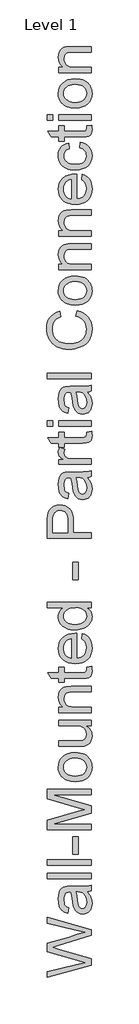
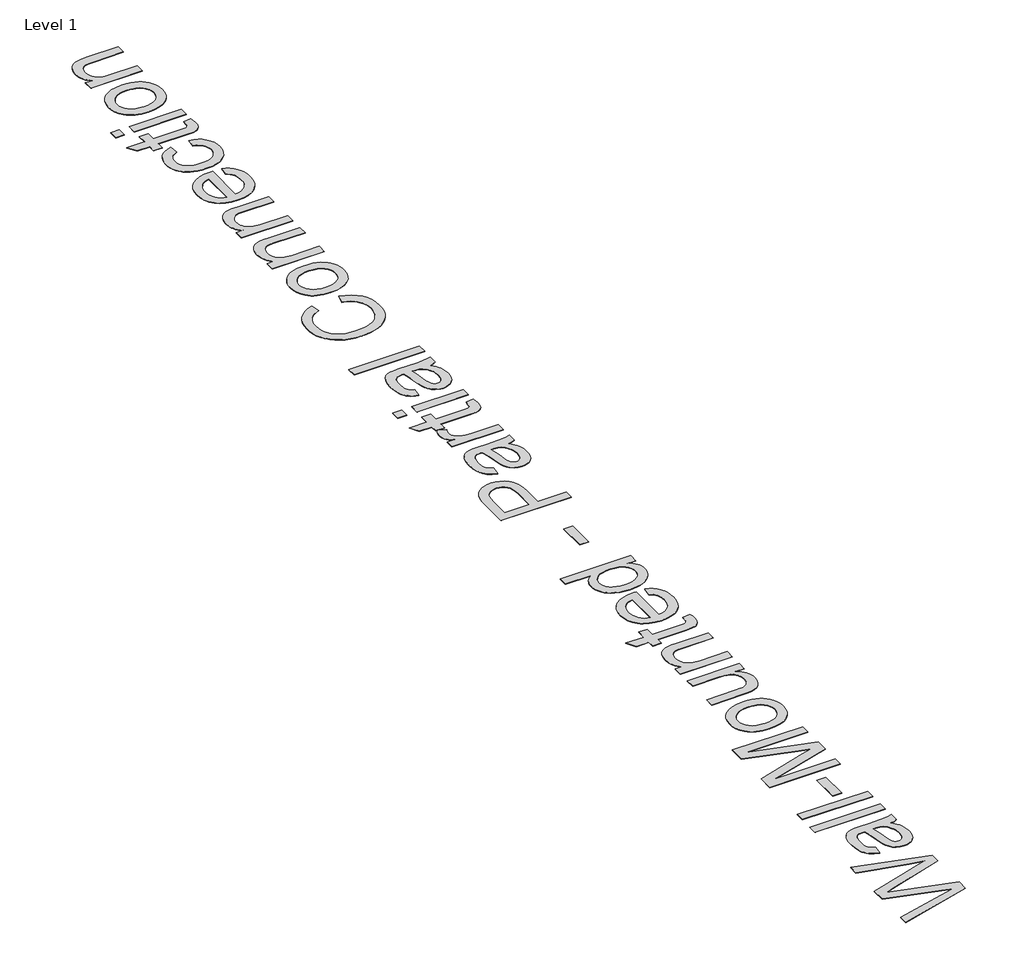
# One storey, part 45 of 80: 1 proxy.
"""IFC4 building model written with IfcOpenShell, lengths in millimetres."""

from ifc_helpers import new_model, si_unit, origin, origin_with_axes, place, context, project, spatial, polyline, outline, extrude, element, save

model = new_model("IFC4")

# Units and contexts
model_context = context("Model", 3, world=origin())
ifc_project = project(units=[si_unit("LENGTHUNIT", "METRE", prefix="MILLI")], contexts=[model_context])

# Site, building, storey
site = spatial("IfcSite", under=ifc_project)
building = spatial("IfcBuilding", under=site)
storey = spatial("IfcBuildingStorey", under=building, Name="Level 1", Elevation=0.0)

# Proxy
placement = place(None, origin())
element("IfcBuildingElementProxy", 1, Name="800mm Arial", ObjectType="800mm Arial", at=placement, inside=storey, context=model_context, shape_type="SweptSolid", body=[
    extrude(outline(polyline([(114831.971127, 17301.1605464), (114032.5824286, 17083.163189), (114032.5824286, 17186.2093884), (114557.9619149, 17312.6751786), (114720.142581, 17351.7078299), (114576.6975875, 17393.4727667), (114032.5824286, 17551.9453309), (114032.5824286, 17700.4645691), (114427.0073699, 17815.6108904), (114573.3798122, 17864.9384035), (114720.142581, 17901.28756), (114562.6458331, 17939.1492317), (114032.5824286, 18066.7860014), (114032.5824286, 18169.8322008), (114831.971127, 17951.6396801), (114831.971127, 17844.8853789), (114215.2552366, 17653.235061), (114129.1882405, 17626.4976949), (114232.8199297, 17596.4425534), (114831.971127, 17421.7714389), (114831.971127, 17301.1605464)])), origin_with_axes(), (0.0, 0.0, 1.0), 5.0),
    extrude(outline(polyline([(114757.0284365, 18631.978792), (114797.9639295, 18584.2369804), (114813.125675, 18559.8354745), (114824.7500865, 18535.0802352), (114839.5337031, 18483.3863677), (114844.4615754, 18428.0331891), (114841.4975334, 18383.5420655), (114832.6054075, 18344.5277107), (114817.7851978, 18310.9901249), (114797.0369041, 18282.9293079), (114771.6778784, 18260.7721795), (114743.0254728, 18244.9456591), (114711.0796873, 18235.4497469), (114675.8405218, 18232.2844429), (114634.4171206, 18237.0659427), (114596.799403, 18251.410442), (114564.5974656, 18273.5370762), (114539.4214056, 18301.6649805), (114520.3929881, 18334.7207571), (114506.6339785, 18371.631008), (114491.6064077, 18458.0883306), (114475.798184, 18560.2562953), (114457.2576746, 18631.3933023), (114435.0090634, 18631.978792), (114410.7844242, 18630.2589158), (114390.4142593, 18625.0992872), (114373.8985687, 18616.4999063), (114361.2373524, 18604.4607729), (114348.6005316, 18583.6514907), (114339.574231, 18558.3046627), (114334.1584506, 18528.4202891), (114332.3531905, 18493.9983697), (114337.1590857, 18434.4735765), (114343.1664547, 18411.4443123), (114351.5767713, 18392.9038029), (114363.0487114, 18377.6688712), (114378.2409512, 18364.5563399), (114397.1534905, 18353.566209), (114419.7863294, 18344.6984786), (114407.295881, 18244.7748913), (114352.6501692, 18262.1200257), (114329.7184865, 18273.9944901), (114309.7142527, 18288.0035526), (114292.2349436, 18304.7509995), (114276.8780349, 18324.8406172), (114263.6435265, 18348.2724057), (114252.5314186, 18375.0463649), (114237.4550571, 18436.4496045), (114232.4296032, 18506.8791447), (114236.8695673, 18574.4300268), (114250.1894595, 18627.9779453), (114270.2180887, 18668.352344), (114294.7842636, 18696.3826667), (114325.1565454, 18714.9719668), (114362.6034952, 18727.0232979), (114397.1473916, 18730.682609), (114450.0366341, 18731.9023793), (114574.3556285, 18731.9023793), (114682.6468404, 18733.1709405), (114747.9533451, 18736.976624), (114790.8648661, 18744.4904094), (114831.971127, 18756.8832762), (114831.971127, 18656.9596889), (114797.2320673, 18640.9563018), (114757.0284365, 18631.978792)]), holes=[polyline([(114557.1812619, 18631.978792), (114573.8189295, 18564.8426318), (114587.8218932, 18470.7739422), (114595.482051, 18418.9337022), (114604.0204434, 18384.8045278), (114615.0959582, 18362.4339395), (114630.3674831, 18345.8694581), (114648.6640384, 18335.6233871), (114668.8146446, 18332.2080302), (114684.3423212, 18334.0681799), (114698.5282504, 18339.6486293), (114711.3724322, 18348.9493783), (114722.8748666, 18361.9704268), (114732.3524823, 18378.5897978), (114739.1222077, 18398.6855144), (114744.5379881, 18449.305984), (114738.5611133, 18502.9758795), (114731.0900199, 18527.4688682), (114720.6304892, 18550.4005509), (114694.2102633, 18588.8477124), (114662.7645836, 18615.5850785), (114630.3674831, 18627.4412463), (114585.4799341, 18631.3933023), (114557.1812619, 18631.978792)])]), origin_with_axes(), (0.0, 0.0, 1.0), 5.0),
    extrude(outline(polyline([(114831.971127, 18869.2973119), (114032.5824286, 18869.2973119), (114032.5824286, 18969.2208992), (114831.971127, 18969.2208992), (114831.971127, 18869.2973119)])), origin_with_axes(), (0.0, 0.0, 1.0), 5.0),
    extrude(outline(polyline([(114831.971127, 19119.1062801), (114032.5824286, 19119.1062801), (114032.5824286, 19219.0298674), (114831.971127, 19219.0298674), (114831.971127, 19119.1062801)])), origin_with_axes(), (0.0, 0.0, 1.0), 5.0),
    extrude(outline(polyline([(114594.6526071, 19318.9534547), (114494.7290198, 19318.9534547), (114494.7290198, 19631.214665), (114594.6526071, 19631.214665), (114594.6526071, 19318.9534547)])), origin_with_axes(), (0.0, 0.0, 1.0), 5.0),
    extrude(outline(polyline([(114831.971127, 19756.1191491), (114032.5824286, 19756.1191491), (114032.5824286, 19928.057978), (114596.0187499, 20091.6047869), (114713.7021936, 20124.5873772), (114586.2605871, 20160.3022532), (114032.5824286, 20321.1167765), (114032.5824286, 20493.0556054), (114831.971127, 20493.0556054), (114831.971127, 20393.1320181), (114132.5060159, 20393.1320181), (114831.971127, 20192.3090272), (114831.971127, 20056.8657272), (114132.5060159, 19856.0427364), (114831.971127, 19856.0427364), (114831.971127, 19756.1191491)])), origin_with_axes(), (0.0, 0.0, 1.0), 5.0),
    extrude(outline(polyline([(114538.4455893, 20630.4505379), (114462.4173032, 20635.8541206), (114428.3460678, 20642.6085989), (114396.9034376, 20652.0648685), (114368.0894124, 20664.2229295), (114341.9039924, 20679.0827819), (114318.3471774, 20696.6444255), (114297.4189676, 20716.9078605), (114268.9861207, 20754.9890909), (114248.6769443, 20797.0223773), (114236.4914385, 20843.0077196), (114232.4296032, 20892.9451178), (114237.375772, 20948.0726389), (114252.2142783, 20997.9185543), (114276.9451222, 21042.4828642), (114311.5683037, 21081.7655684), (114354.9128432, 21113.8272321), (114405.8077611, 21136.7284205), (114464.2530576, 21150.4691335), (114530.2487325, 21155.0493712), (114583.7356625, 21153.0245524), (114631.1969269, 21146.950096), (114672.6325258, 21136.8260021), (114708.0424591, 21122.6522706), (114738.6282007, 21104.6057682), (114765.5912244, 21082.8633617), (114788.9315301, 21057.425051), (114808.6491178, 21028.2908361), (114824.317068, 20996.5951035), (114835.508461, 20963.4722396), (114842.2232968, 20928.9222443), (114844.4615754, 20892.9451178), (114839.5337031, 20837.0125483), (114824.7500865, 20786.7031201), (114800.1107253, 20742.0168332), (114765.6156198, 20702.9536877), (114721.8502595, 20671.2335596), (114669.4001344, 20648.5763253), (114608.2652443, 20634.9819848), (114538.4455893, 20630.4505379)]), holes=[polyline([(114538.250426, 20730.3741252), (114586.718001, 20733.2649809), (114628.6842, 20741.9375481), (114664.149023, 20756.3918268), (114693.11247, 20776.627817), (114715.6111342, 20801.2427827), (114731.6816086, 20828.8339881), (114741.3238932, 20859.4014331), (114744.5379881, 20892.9451178), (114741.3055966, 20926.3180346), (114731.6084223, 20956.7635026), (114715.4464652, 20984.2815218), (114692.8197251, 21008.8720921), (114663.5696321, 21029.1080823), (114627.5376158, 21043.5623609), (114584.7236765, 21052.2349282), (114535.1278139, 21055.1257839), (114488.1971496, 21052.2166316), (114447.3287439, 21043.4891747), (114412.5225969, 21028.9434133), (114383.7787086, 21008.5793472), (114361.2800444, 20983.8972941), (114345.20957, 20956.3975715), (114335.5672854, 20926.0801794), (114332.3531905, 20892.9451178), (114335.5550877, 20859.4014331), (114345.1607792, 20828.8339881), (114361.1702651, 20801.2427827), (114383.5835453, 20776.627817), (114412.4616084, 20756.3918268), (114447.8654429, 20741.9375481), (114489.7950488, 20733.2649809), (114538.250426, 20730.3741252)])]), origin_with_axes(), (0.0, 0.0, 1.0), 5.0),
    extrude(outline(polyline([(114831.971127, 21642.1768592), (114731.0717234, 21642.1768592), (114757.6474699, 21624.8439225), (114780.6797836, 21606.022866), (114800.1686644, 21585.7136896), (114816.1141124, 21563.9163934), (114828.5161274, 21540.6309774), (114837.3747096, 21515.8574415), (114842.6898589, 21489.5957858), (114844.4615754, 21461.8460103), (114839.4849123, 21413.1771732), (114824.5549232, 21367.8749023), (114802.1111487, 21329.8668581), (114774.5931296, 21303.0807012), (114741.1714219, 21285.0524954), (114701.0165819, 21273.3183046), (114663.1549101, 21268.9271313), (114608.1188718, 21267.4634069), (114244.9200516, 21267.4634069), (114244.9200516, 21367.3869942), (114561.084527, 21367.3869942), (114624.3174221, 21368.8995094), (114662.9597469, 21373.4370551), (114680.9696561, 21379.4200287), (114696.9425489, 21388.0011131), (114710.8784252, 21399.1803084), (114722.777285, 21412.9576146), (114732.2975926, 21428.9183096), (114739.0978123, 21446.6476717), (114744.5379881, 21487.4123969), (114738.9758353, 21530.5190811), (114722.2893768, 21570.844689), (114710.1587607, 21588.8911914), (114696.0155234, 21604.0956288), (114679.8596651, 21616.4580013), (114661.6911857, 21625.9783089), (114614.6812363, 21638.1272217), (114550.3505479, 21642.1768592), (114244.9200516, 21642.1768592), (114244.9200516, 21742.1004465), (114831.971127, 21742.1004465), (114831.971127, 21642.1768592)])), origin_with_axes(), (0.0, 0.0, 1.0), 5.0),
    extrude(outline(polyline([(114831.971127, 21879.4953791), (114244.9200516, 21879.4953791), (114244.9200516, 21979.4189663), (114326.8886193, 21979.4189663), (114304.7497874, 21995.9041627), (114285.5627998, 22014.1336306), (114269.3276564, 22034.1073701), (114256.0443572, 22055.8253812), (114245.7129023, 22079.287664), (114238.3332917, 22104.4942183), (114232.4296032, 22160.1401418), (114237.1867076, 22209.3944686), (114251.4580207, 22254.5015763), (114273.4626779, 22292.119294), (114301.4198144, 22318.9054509), (114335.2562439, 22337.0800292), (114374.8987804, 22348.8630108), (114412.809243, 22352.8150667), (114471.5045923, 22354.1324187), (114831.971127, 22354.1324187), (114831.971127, 22254.2088314), (114484.970857, 22254.2088314), (114433.3013849, 22251.3301734), (114396.5619019, 22242.6941993), (114370.2392576, 22226.7639985), (114349.8203019, 22202.0026603), (114336.7199684, 22170.2642357), (114332.3531905, 22133.4027757), (114334.8049289, 22103.0609881), (114342.1601441, 22074.8781941), (114354.4188362, 22048.8543937), (114371.581005, 22024.9895867), (114395.5982833, 22005.0524403), (114428.4223035, 21990.8116214), (114470.0530656, 21982.2671301), (114520.4905697, 21979.4189663), (114831.971127, 21979.4189663), (114831.971127, 21879.4953791)])), origin_with_axes(), (0.0, 0.0, 1.0), 5.0),
    extrude(outline(polyline([(114748.6364165, 22703.8649742), (114834.8985758, 22716.3554226), (114842.0708255, 22676.7860724), (114844.4615754, 22641.6078954), (114840.3143562, 22593.6465251), (114827.8726986, 22557.8828584), (114808.6979086, 22532.6092167), (114784.3512924, 22516.1179215), (114742.5375647, 22507.0428301), (114670.9614404, 22504.0177996), (114344.8436389, 22504.0177996), (114344.8436389, 22429.0751092), (114244.9200516, 22429.0751092), (114244.9200516, 22504.0177996), (114102.2557112, 22504.0177996), (114043.511571, 22603.9413869), (114244.9200516, 22603.9413869), (114244.9200516, 22703.8649742), (114344.8436389, 22703.8649742), (114344.8436389, 22603.9413869), (114668.0339916, 22603.9413869), (114700.9190003, 22605.2587389), (114719.5570913, 22609.2107948), (114729.8763484, 22616.114695), (114737.8048557, 22626.2875798), (114742.854705, 22640.7052654), (114744.5379881, 22660.343568), (114748.6364165, 22703.8649742)])), origin_with_axes(), (0.0, 0.0, 1.0), 5.0),
    extrude(outline(polyline([(114657.1048492, 23214.8023796), (114669.5952976, 23312.7743343), (114708.8353099, 23297.7528624), (114743.4157994, 23277.4741803), (114773.3367661, 23251.9382879), (114798.5982101, 23221.1451854), (114818.6634324, 23185.4120129), (114832.9957341, 23145.0559108), (114841.595115, 23100.076879), (114844.4615754, 23050.4749176), (114839.5154066, 22988.4739906), (114824.6769002, 22933.2305913), (114799.9460563, 22884.7447198), (114765.3228749, 22843.0163761), (114721.7709744, 22809.4604937), (114670.2539736, 22785.4920062), (114610.7718723, 22771.1109138), (114543.3246707, 22766.3172163), (114473.5903996, 22771.1597046), (114412.1261716, 22785.6871695), (114358.9319865, 22809.899611), (114335.4361601, 22825.637698), (114314.0078444, 22843.7970291), (114278.3173639, 22885.4155935), (114252.8241635, 22932.791474), (114237.5282433, 22985.9246706), (114232.4296032, 23044.8151832), (114237.5160456, 23101.8089529), (114252.7753727, 23153.3503492), (114278.2075845, 23199.439372), (114313.8126811, 23240.0760213), (114358.6392416, 23273.247676), (114411.735845, 23296.9417151), (114473.1024915, 23311.1581386), (114542.7391809, 23315.8969464), (114569.6717103, 23315.3114566), (114569.6717103, 22866.2408036), (114609.5460031, 22872.0286139), (114644.4680283, 22883.5371472), (114674.4377859, 22900.7664034), (114699.4552758, 22923.7163826), (114719.1789624, 22951.1185236), (114733.26731, 22981.7042652), (114741.7203186, 23015.4736074), (114744.5379881, 23052.4265502), (114739.317371, 23105.6085376), (114723.6555196, 23150.3985049), (114711.6651771, 23169.6464811), (114696.5766178, 23186.7964523), (114678.3898419, 23201.8484184), (114657.1048492, 23214.8023796)]), holes=[polyline([(114469.748123, 22866.2408036), (114469.748123, 23215.9733591), (114441.4738462, 23210.8381259), (114416.9564622, 23202.4583036), (114396.1959708, 23190.8338921), (114379.192372, 23175.9648915), (114358.7002301, 23148.7152218), (114344.0629859, 23117.7086595), (114335.2806393, 23082.9452044), (114332.3531905, 23044.4248567), (114334.6890507, 23009.2893717), (114341.6966314, 22977.0691378), (114353.3759325, 22947.7641551), (114369.7269541, 22921.3744235), (114389.9934385, 22899.2294928), (114413.4191281, 22882.6589125), (114440.004023, 22871.6626828), (114469.748123, 22866.2408036)])]), origin_with_axes(), (0.0, 0.0, 1.0), 5.0),
    extrude(outline(polyline([(114831.971127, 23778.0435376), (114737.7072741, 23778.0435376), (114784.4122809, 23748.1469663), (114802.7606764, 23730.8292767), (114817.7730001, 23711.9319845), (114829.4492518, 23691.4550897), (114837.7894315, 23669.3985923), (114842.7935394, 23645.7624923), (114844.4615754, 23620.5467897), (114842.0464301, 23587.5641993), (114834.8009942, 23555.9477518), (114822.7252677, 23525.6974471), (114805.8192506, 23496.8132851), (114784.5891476, 23470.197896), (114759.5411634, 23446.7539098), (114730.675298, 23426.4813266), (114697.9915514, 23409.3801462), (114662.1120065, 23395.8041022), (114623.6587461, 23386.1069279), (114582.6317703, 23380.2886233), (114539.0310791, 23378.3491884), (114496.2293374, 23380.136152), (114455.4524145, 23385.4970427), (114416.7003104, 23394.4318605), (114379.9730251, 23406.9406055), (114346.3439564, 23423.0171788), (114316.8865024, 23442.6554814), (114291.600663, 23465.8555135), (114270.4864382, 23492.6172751), (114253.8365729, 23521.995444), (114241.943812, 23553.0446984), (114234.8081554, 23585.7650381), (114232.4296032, 23620.1564632), (114234.1311828, 23645.3081278), (114239.2359218, 23669.0448589), (114247.74382, 23691.3666564), (114259.6548775, 23712.2735202), (114290.9541847, 23748.9154216), (114330.4015579, 23778.0435376), (114032.5824286, 23778.0435376), (114032.5824286, 23877.9671249), (114831.971127, 23877.9671249), (114831.971127, 23778.0435376)]), holes=[polyline([(114538.6407525, 23478.2727757), (114587.0961298, 23481.0904453), (114629.0257357, 23489.5434538), (114664.4295702, 23503.6318014), (114693.3076333, 23523.355488), (114715.7209135, 23546.9092535), (114731.7303994, 23572.4878378), (114741.3360909, 23600.0912409), (114744.5379881, 23629.7194627), (114741.4824633, 23659.4879582), (114732.3158891, 23686.9266923), (114717.0382655, 23712.035665), (114695.6495923, 23734.8148763), (114667.9791019, 23753.7274156), (114633.8560263, 23767.2363723), (114593.2803655, 23775.3417463), (114546.2521195, 23778.0435376), (114494.6924267, 23775.2929555), (114450.4757514, 23767.041209), (114413.6020937, 23753.2882983), (114384.0714534, 23734.0342233), (114361.4447134, 23710.7549061), (114345.2827562, 23684.9262689), (114335.5855819, 23656.5483116), (114332.3531905, 23625.6210343), (114335.457506, 23595.4073227), (114344.7704527, 23567.8039196), (114360.2920304, 23542.8108251), (114382.0222393, 23520.4280391), (114410.4367896, 23501.9851114), (114446.011392, 23488.8115916), (114488.7460463, 23480.9074797), (114538.6407525, 23478.2727757)])]), origin_with_axes(), (0.0, 0.0, 1.0), 5.0),
    extrude(outline(polyline([(114594.6526071, 24290.1519225), (114494.7290198, 24290.1519225), (114494.7290198, 24602.4131328), (114594.6526071, 24602.4131328), (114594.6526071, 24290.1519225)])), origin_with_axes(), (0.0, 0.0, 1.0), 5.0),
    extrude(outline(polyline([(114831.971127, 25039.5788272), (114032.5824286, 25039.5788272), (114032.5824286, 25335.8366504), (114034.4852704, 25404.8268616), (114040.1937956, 25455.2765634), (114054.4163179, 25508.531737), (114077.5675592, 25552.3702835), (114092.7537001, 25570.9778802), (114110.696522, 25587.6704375), (114154.8522088, 25615.3104337), (114180.2905195, 25625.7272725), (114206.9364028, 25633.1678716), (114263.8508875, 25639.1203509), (114312.9222488, 25635.1012076), (114358.0659495, 25623.0437777), (114399.2819897, 25602.9480611), (114436.5703694, 25574.8140579), (114453.128752, 25557.1197643), (114467.4793502, 25536.1900297), (114479.622164, 25512.0248543), (114489.5571935, 25484.6242381), (114502.8038996, 25420.116683), (114507.2194683, 25342.6673644), (114507.2194683, 25139.5024145), (114831.971127, 25139.5024145), (114831.971127, 25039.5788272)]), holes=[polyline([(114407.295881, 25139.5024145), (114407.295881, 25348.5222621), (114405.0027127, 25396.581214), (114398.1232079, 25437.1263805), (114386.6573666, 25470.1577617), (114370.6051888, 25495.6753575), (114350.393594, 25514.7159727), (114326.449502, 25528.3164121), (114298.7729127, 25536.4766758), (114267.3638261, 25539.1967637), (114244.041817, 25537.5927656), (114222.4762771, 25532.7807716), (114202.6672066, 25524.7607815), (114184.6146054, 25513.5327954), (114168.9039632, 25499.6945008), (114156.1207699, 25483.843585), (114146.2650255, 25465.9800482), (114139.3367299, 25446.1038903), (114134.2136944, 25407.5591472), (114132.5060159, 25346.180303), (114132.5060159, 25139.5024145), (114407.295881, 25139.5024145)])]), origin_with_axes(), (0.0, 0.0, 1.0), 5.0),
    extrude(outline(polyline([(114757.0284365, 26138.7382874), (114797.9639295, 26090.9964758), (114813.125675, 26066.5949699), (114824.7500865, 26041.8397306), (114839.5337031, 25990.145863), (114844.4615754, 25934.7926844), (114841.4975334, 25890.3015608), (114832.6054075, 25851.2872061), (114817.7851978, 25817.7496202), (114797.0369041, 25789.6888033), (114771.6778784, 25767.5316748), (114743.0254728, 25751.7051545), (114711.0796873, 25742.2092423), (114675.8405218, 25739.0439382), (114634.4171206, 25743.825438), (114596.799403, 25758.1699374), (114564.5974656, 25780.2965716), (114539.4214056, 25808.4244759), (114520.3929881, 25841.4802525), (114506.6339785, 25878.3905033), (114491.6064077, 25964.8478259), (114475.798184, 26067.0157907), (114457.2576746, 26138.1527976), (114435.0090634, 26138.7382874), (114410.7844242, 26137.0184112), (114390.4142593, 26131.8587826), (114373.8985687, 26123.2594016), (114361.2373524, 26111.2202683), (114348.6005316, 26090.410986), (114339.574231, 26065.0641581), (114334.1584506, 26035.1797845), (114332.3531905, 26000.7578651), (114337.1590857, 25941.2330719), (114343.1664547, 25918.2038076), (114351.5767713, 25899.6632983), (114363.0487114, 25884.4283666), (114378.2409512, 25871.3158353), (114397.1534905, 25860.3257044), (114419.7863294, 25851.4579739), (114407.295881, 25751.5343866), (114352.6501692, 25768.8795211), (114329.7184865, 25780.7539854), (114309.7142527, 25794.7630479), (114292.2349436, 25811.5104949), (114276.8780349, 25831.6001126), (114263.6435265, 25855.0319011), (114252.5314186, 25881.8058603), (114237.4550571, 25943.2090999), (114232.4296032, 26013.63864), (114236.8695673, 26081.1895222), (114250.1894595, 26134.7374407), (114270.2180887, 26175.1118393), (114294.7842636, 26203.142162), (114325.1565454, 26221.7314622), (114362.6034952, 26233.7827933), (114397.1473916, 26237.4421043), (114450.0366341, 26238.6618747), (114574.3556285, 26238.6618747), (114682.6468404, 26239.9304359), (114747.9533451, 26243.7361194), (114790.8648661, 26251.2499047), (114831.971127, 26263.6427715), (114831.971127, 26163.7191842), (114797.2320673, 26147.7157972), (114757.0284365, 26138.7382874)]), holes=[polyline([(114557.1812619, 26138.7382874), (114573.8189295, 26071.6021272), (114587.8218932, 25977.5334376), (114595.482051, 25925.6931976), (114604.0204434, 25891.5640231), (114615.0959582, 25869.1934349), (114630.3674831, 25852.6289535), (114648.6640384, 25842.3828825), (114668.8146446, 25838.9675255), (114684.3423212, 25840.8276753), (114698.5282504, 25846.4081247), (114711.3724322, 25855.7088736), (114722.8748666, 25868.7299221), (114732.3524823, 25885.3492932), (114739.1222077, 25905.4450098), (114744.5379881, 25956.0654794), (114738.5611133, 26009.7353749), (114731.0900199, 26034.2283636), (114720.6304892, 26057.1600462), (114694.2102633, 26095.6072077), (114662.7645836, 26122.3445739), (114630.3674831, 26134.2007417), (114585.4799341, 26138.1527976), (114557.1812619, 26138.7382874)])]), origin_with_axes(), (0.0, 0.0, 1.0), 5.0),
    extrude(outline(polyline([(114831.971127, 26376.0568072), (114244.9200516, 26376.0568072), (114244.9200516, 26463.4899461), (114331.7677007, 26463.4899461), (114281.4155806, 26495.789465), (114263.9972599, 26510.9878036), (114251.7507656, 26525.5518617), (114237.2598938, 26555.4118399), (114232.4296032, 26588.0041037), (114234.3568404, 26612.7898373), (114240.1385518, 26637.7707341), (114249.7747376, 26662.9467942), (114263.2653977, 26688.3180175), (114352.8453324, 26654.9451007), (114337.476226, 26619.8157145), (114332.3531905, 26584.6863284), (114337.2810627, 26554.8507455), (114352.0646794, 26528.1865656), (114375.5818518, 26506.6454212), (114406.7103912, 26492.1789448), (114462.5270825, 26480.0300321), (114523.4180185, 26475.9803945), (114831.971127, 26475.9803945), (114831.971127, 26376.0568072)])), origin_with_axes(), (0.0, 0.0, 1.0), 5.0),
    extrude(outline(polyline([(114748.6364165, 26963.1078826), (114834.8985758, 26975.598331), (114842.0708255, 26936.0289807), (114844.4615754, 26900.8508038), (114840.3143562, 26852.8894335), (114827.8726986, 26817.1257668), (114808.6979086, 26791.8521251), (114784.3512924, 26775.3608299), (114742.5375647, 26766.2857385), (114670.9614404, 26763.260708), (114344.8436389, 26763.260708), (114344.8436389, 26688.3180175), (114263.2653977, 26688.3180175), (114244.9200516, 26688.3180175), (114244.9200516, 26763.260708), (114102.2557112, 26763.260708), (114043.511571, 26863.1842953), (114244.9200516, 26863.1842953), (114244.9200516, 26963.1078826), (114344.8436389, 26963.1078826), (114344.8436389, 26863.1842953), (114668.0339916, 26863.1842953), (114700.9190003, 26864.5016473), (114719.5570913, 26868.4537032), (114729.8763484, 26875.3576034), (114737.8048557, 26885.5304881), (114742.854705, 26899.9481737), (114744.5379881, 26919.5864764), (114748.6364165, 26963.1078826)])), origin_with_axes(), (0.0, 0.0, 1.0), 5.0),
    extrude(outline(polyline([(114132.5060159, 27063.0314699), (114032.5824286, 27063.0314699), (114032.5824286, 27162.9550572), (114132.5060159, 27162.9550572), (114132.5060159, 27063.0314699)])), origin_with_axes(), (0.0, 0.0, 1.0), 5.0),
    extrude(outline(polyline([(114831.971127, 27063.0314699), (114244.9200516, 27063.0314699), (114244.9200516, 27162.9550572), (114831.971127, 27162.9550572), (114831.971127, 27063.0314699)])), origin_with_axes(), (0.0, 0.0, 1.0), 5.0),
    extrude(outline(polyline([(114757.0284365, 27687.5538904), (114797.9639295, 27639.8120788), (114813.125675, 27615.4105729), (114824.7500865, 27590.6553336), (114839.5337031, 27538.9614661), (114844.4615754, 27483.6082875), (114841.4975334, 27439.1171639), (114832.6054075, 27400.1028091), (114817.7851978, 27366.5652233), (114797.0369041, 27338.5044063), (114771.6778784, 27316.3472779), (114743.0254728, 27300.5207575), (114711.0796873, 27291.0248453), (114675.8405218, 27287.8595413), (114634.4171206, 27292.6410411), (114596.799403, 27306.9855404), (114564.5974656, 27329.1121746), (114539.4214056, 27357.2400789), (114520.3929881, 27390.2958555), (114506.6339785, 27427.2061064), (114491.6064077, 27513.663429), (114475.798184, 27615.8313937), (114457.2576746, 27686.9684007), (114435.0090634, 27687.5538904), (114410.7844242, 27685.8340142), (114390.4142593, 27680.6743857), (114373.8985687, 27672.0750047), (114361.2373524, 27660.0358713), (114348.6005316, 27639.2265891), (114339.574231, 27613.8797611), (114334.1584506, 27583.9953875), (114332.3531905, 27549.5734681), (114337.1590857, 27490.0486749), (114343.1664547, 27467.0194107), (114351.5767713, 27448.4789013), (114363.0487114, 27433.2439696), (114378.2409512, 27420.1314383), (114397.1534905, 27409.1413074), (114419.7863294, 27400.273577), (114407.295881, 27300.3499897), (114352.6501692, 27317.6951241), (114329.7184865, 27329.5695885), (114309.7142527, 27343.578651), (114292.2349436, 27360.3260979), (114276.8780349, 27380.4157156), (114263.6435265, 27403.8475041), (114252.5314186, 27430.6214634), (114237.4550571, 27492.0247029), (114232.4296032, 27562.4542431), (114236.8695673, 27630.0051252), (114250.1894595, 27683.5530437), (114270.2180887, 27723.9274424), (114294.7842636, 27751.9577651), (114325.1565454, 27770.5470652), (114362.6034952, 27782.5983963), (114397.1473916, 27786.2577074), (114450.0366341, 27787.4774777), (114574.3556285, 27787.4774777), (114682.6468404, 27788.7460389), (114747.9533451, 27792.5517224), (114790.8648661, 27800.0655078), (114831.971127, 27812.4583746), (114831.971127, 27712.5347873), (114797.2320673, 27696.5314002), (114757.0284365, 27687.5538904)]), holes=[polyline([(114557.1812619, 27687.5538904), (114573.8189295, 27620.4177302), (114587.8218932, 27526.3490406), (114595.482051, 27474.5088006), (114604.0204434, 27440.3796262), (114615.0959582, 27418.0090379), (114630.3674831, 27401.4445565), (114648.6640384, 27391.1984856), (114668.8146446, 27387.7831286), (114684.3423212, 27389.6432784), (114698.5282504, 27395.2237277), (114711.3724322, 27404.5244767), (114722.8748666, 27417.5455252), (114732.3524823, 27434.1648962), (114739.1222077, 27454.2606128), (114744.5379881, 27504.8810824), (114738.5611133, 27558.5509779), (114731.0900199, 27583.0439666), (114720.6304892, 27605.9756493), (114694.2102633, 27644.4228108), (114662.7645836, 27671.1601769), (114630.3674831, 27683.0163447), (114585.4799341, 27686.9684007), (114557.1812619, 27687.5538904)])]), origin_with_axes(), (0.0, 0.0, 1.0), 5.0),
    extrude(outline(polyline([(114831.971127, 27924.8724103), (114032.5824286, 27924.8724103), (114032.5824286, 28024.7959976), (114831.971127, 28024.7959976), (114831.971127, 27924.8724103)])), origin_with_axes(), (0.0, 0.0, 1.0), 5.0),
    extrude(outline(polyline([(114547.8134256, 29061.5032157), (114573.5749754, 29161.426803), (114635.7161761, 29141.6543256), (114690.0142533, 29115.3194837), (114736.4692072, 29082.4222773), (114775.0810377, 29042.9627064), (114805.4350229, 28997.8312033), (114827.116441, 28947.9182005), (114840.1252918, 28893.2236979), (114844.4615754, 28833.7476955), (114841.1803931, 28772.8140675), (114831.3368464, 28717.8451166), (114814.9309351, 28668.8408426), (114791.9626594, 28625.8012457), (114762.7735548, 28588.1347372), (114727.7051572, 28555.2497285), (114686.7574665, 28527.1462196), (114639.9304826, 28503.8242105), (114589.2490245, 28485.5093586), (114536.7379108, 28472.4273216), (114482.3971416, 28464.5780994), (114426.2267168, 28461.961692), (114365.9578637, 28464.9196351), (114309.6654619, 28473.7934644), (114257.3495115, 28488.5831799), (114209.0100124, 28509.2887816), (114165.4459143, 28535.4467569), (114127.4561666, 28566.5935928), (114095.0407695, 28602.7292895), (114068.1997229, 28643.853847), (114047.1525855, 28688.5706281), (114032.1189159, 28735.4829959), (114023.0987141, 28784.5909503), (114020.0919802, 28835.8944913), (114023.9830476, 28893.0468312), (114035.6562499, 28945.4542644), (114055.111587, 28993.1167909), (114082.349059, 29036.0344108), (114116.6490013, 29073.4996571), (114157.2917495, 29104.8050632), (114204.2773035, 29129.9506291), (114257.6056633, 29148.9363546), (114281.4155806, 29049.0127673), (114242.1206787, 29033.2777298), (114208.5464997, 29014.3712893), (114180.6930437, 28992.2934459), (114158.5603106, 28967.0441996), (114141.6969855, 28938.4771779), (114129.6517533, 28906.4460085), (114122.4246139, 28870.9506912), (114120.0155675, 28831.9912262), (114122.6868646, 28787.1646657), (114130.7007558, 28746.1681841), (114144.0572411, 28709.0017815), (114162.7563207, 28675.6654578), (114185.9563528, 28646.5800337), (114212.8156959, 28622.1663301), (114243.3343502, 28602.4243469), (114277.5123154, 28587.3540842), (114313.8004834, 28576.211482), (114350.6497458, 28568.2524805), (114388.0601025, 28563.4770796), (114426.0315536, 28561.8852793), (114473.7489698, 28563.7698245), (114518.3437739, 28569.42346), (114559.8159659, 28578.846186), (114598.1655458, 28592.0380024), (114632.6301571, 28609.2123689), (114662.4474433, 28630.5827455), (114687.6174046, 28656.1491321), (114708.1400408, 28685.9115287), (114724.0641427, 28718.4245075), (114735.4385012, 28752.2426405), (114742.2631164, 28787.3659278), (114744.5379881, 28823.7943694), (114741.4397714, 28867.2364905), (114732.1451213, 28907.2022661), (114716.6540378, 28943.6916962), (114694.9665209, 28976.7047808), (114667.1801523, 29005.4608669), (114633.3925135, 29029.1793014), (114593.6036046, 29047.8600843), (114547.8134256, 29061.5032157)])), origin_with_axes(), (0.0, 0.0, 1.0), 5.0),
    extrude(outline(polyline([(114538.4455893, 29261.3503903), (114462.4173032, 29266.753973), (114428.3460678, 29273.5084513), (114396.9034376, 29282.964721), (114368.0894124, 29295.1227819), (114341.9039924, 29309.9826343), (114318.3471774, 29327.5442779), (114297.4189676, 29347.8077129), (114268.9861207, 29385.8889433), (114248.6769443, 29427.9222297), (114236.4914385, 29473.907572), (114232.4296032, 29523.8449702), (114237.375772, 29578.9724913), (114252.2142783, 29628.8184068), (114276.9451222, 29673.3827166), (114311.5683037, 29712.6654208), (114354.9128432, 29744.7270845), (114405.8077611, 29767.6282729), (114464.2530576, 29781.3689859), (114530.2487325, 29785.9492236), (114583.7356625, 29783.9244048), (114631.1969269, 29777.8499485), (114672.6325258, 29767.7258545), (114708.0424591, 29753.552123), (114738.6282007, 29735.5056207), (114765.5912244, 29713.7632141), (114788.9315301, 29688.3249034), (114808.6491178, 29659.1906885), (114824.317068, 29627.4949559), (114835.508461, 29594.372092), (114842.2232968, 29559.8220968), (114844.4615754, 29523.8449702), (114839.5337031, 29467.9124007), (114824.7500865, 29417.6029725), (114800.1107253, 29372.9166856), (114765.6156198, 29333.8535401), (114721.8502595, 29302.133412), (114669.4001344, 29279.4761777), (114608.2652443, 29265.8818372), (114538.4455893, 29261.3503903)]), holes=[polyline([(114538.250426, 29361.2739776), (114586.718001, 29364.1648333), (114628.6842, 29372.8374005), (114664.149023, 29387.2916792), (114693.11247, 29407.5276694), (114715.6111342, 29432.1426351), (114731.6816086, 29459.7338405), (114741.3238932, 29490.3012855), (114744.5379881, 29523.8449702), (114741.3055966, 29557.2178871), (114731.6084223, 29587.6633551), (114715.4464652, 29615.1813742), (114692.8197251, 29639.7719445), (114663.5696321, 29660.0079347), (114627.5376158, 29674.4622134), (114584.7236765, 29683.1347806), (114535.1278139, 29686.0256363), (114488.1971496, 29683.116484), (114447.3287439, 29674.3890271), (114412.5225969, 29659.8432657), (114383.7787086, 29639.4791996), (114361.2800444, 29614.7971466), (114345.20957, 29587.297424), (114335.5672854, 29556.9800318), (114332.3531905, 29523.8449702), (114335.5550877, 29490.3012855), (114345.1607792, 29459.7338405), (114361.1702651, 29432.1426351), (114383.5835453, 29407.5276694), (114412.4616084, 29387.2916792), (114447.8654429, 29372.8374005), (114489.7950488, 29364.1648333), (114538.250426, 29361.2739776)])]), origin_with_axes(), (0.0, 0.0, 1.0), 5.0),
    extrude(outline(polyline([(114831.971127, 29898.3632593), (114244.9200516, 29898.3632593), (114244.9200516, 29998.2868466), (114326.8886193, 29998.2868466), (114304.7497874, 30014.7720429), (114285.5627998, 30033.0015108), (114269.3276564, 30052.9752504), (114256.0443572, 30074.6932615), (114245.7129023, 30098.1555442), (114238.3332917, 30123.3620986), (114232.4296032, 30179.008022), (114237.1867076, 30228.2623489), (114251.4580207, 30273.3694565), (114273.4626779, 30310.9871742), (114301.4198144, 30337.7733312), (114335.2562439, 30355.9479094), (114374.8987804, 30367.730891), (114412.809243, 30371.682947), (114471.5045923, 30373.0002989), (114831.971127, 30373.0002989), (114831.971127, 30273.0767116), (114484.970857, 30273.0767116), (114433.3013849, 30270.1980536), (114396.5619019, 30261.5620795), (114370.2392576, 30245.6318787), (114349.8203019, 30220.8705405), (114336.7199684, 30189.132116), (114332.3531905, 30152.2706559), (114334.8049289, 30121.9288684), (114342.1601441, 30093.7460744), (114354.4188362, 30067.7222739), (114371.581005, 30043.857467), (114395.5982833, 30023.9203206), (114428.4223035, 30009.6795017), (114470.0530656, 30001.1350104), (114520.4905697, 29998.2868466), (114831.971127, 29998.2868466), (114831.971127, 29898.3632593)])), origin_with_axes(), (0.0, 0.0, 1.0), 5.0),
    extrude(outline(polyline([(114831.971127, 30510.3952315), (114244.9200516, 30510.3952315), (114244.9200516, 30610.3188188), (114326.8886193, 30610.3188188), (114304.7497874, 30626.8040151), (114285.5627998, 30645.033483), (114269.3276564, 30665.0072225), (114256.0443572, 30686.7252337), (114245.7129023, 30710.1875164), (114238.3332917, 30735.3940707), (114232.4296032, 30791.0399942), (114237.1867076, 30840.2943211), (114251.4580207, 30885.4014287), (114273.4626779, 30923.0191464), (114301.4198144, 30949.8053033), (114335.2562439, 30967.9798816), (114374.8987804, 30979.7628632), (114412.809243, 30983.7149191), (114471.5045923, 30985.0322711), (114831.971127, 30985.0322711), (114831.971127, 30885.1086838), (114484.970857, 30885.1086838), (114433.3013849, 30882.2300258), (114396.5619019, 30873.5940517), (114370.2392576, 30857.6638509), (114349.8203019, 30832.9025127), (114336.7199684, 30801.1640881), (114332.3531905, 30764.3026281), (114334.8049289, 30733.9608406), (114342.1601441, 30705.7780466), (114354.4188362, 30679.7542461), (114371.581005, 30655.8894391), (114395.5982833, 30635.9522927), (114428.4223035, 30621.7114739), (114470.0530656, 30613.1669825), (114520.4905697, 30610.3188188), (114831.971127, 30610.3188188), (114831.971127, 30510.3952315)])), origin_with_axes(), (0.0, 0.0, 1.0), 5.0),
    extrude(outline(polyline([(114657.1048492, 31533.4410217), (114669.5952976, 31631.4129764), (114708.8353099, 31616.3915045), (114743.4157994, 31596.1128224), (114773.3367661, 31570.5769301), (114798.5982101, 31539.7838275), (114818.6634324, 31504.050655), (114832.9957341, 31463.6945529), (114841.595115, 31418.7155212), (114844.4615754, 31369.1135598), (114839.5154066, 31307.1126327), (114824.6769002, 31251.8692335), (114799.9460563, 31203.3833619), (114765.3228749, 31161.6550182), (114721.7709744, 31128.0991358), (114670.2539736, 31104.1306483), (114610.7718723, 31089.7495559), (114543.3246707, 31084.9558584), (114473.5903996, 31089.7983467), (114412.1261716, 31104.3258116), (114358.9319865, 31128.5382531), (114335.4361601, 31144.2763401), (114314.0078444, 31162.4356712), (114278.3173639, 31204.0542356), (114252.8241635, 31251.4301161), (114237.5282433, 31304.5633127), (114232.4296032, 31363.4538253), (114237.5160456, 31420.4475951), (114252.7753727, 31471.9889913), (114278.2075845, 31518.0780141), (114313.8126811, 31558.7146634), (114358.6392416, 31591.8863181), (114411.735845, 31615.5803572), (114473.1024915, 31629.7967807), (114542.7391809, 31634.5355885), (114569.6717103, 31633.9500987), (114569.6717103, 31184.8794457), (114609.5460031, 31190.667256), (114644.4680283, 31202.1757893), (114674.4377859, 31219.4050455), (114699.4552758, 31242.3550247), (114719.1789624, 31269.7571657), (114733.26731, 31300.3429073), (114741.7203186, 31334.1122495), (114744.5379881, 31371.0651923), (114739.317371, 31424.2471797), (114723.6555196, 31469.0371471), (114711.6651771, 31488.2851232), (114696.5766178, 31505.4350944), (114678.3898419, 31520.4870605), (114657.1048492, 31533.4410217)]), holes=[polyline([(114469.748123, 31184.8794457), (114469.748123, 31534.6120012), (114441.4738462, 31529.476768), (114416.9564622, 31521.0969457), (114396.1959708, 31509.4725342), (114379.192372, 31494.6035336), (114358.7002301, 31467.353864), (114344.0629859, 31436.3473016), (114335.2806393, 31401.5838466), (114332.3531905, 31363.0634988), (114334.6890507, 31327.9280138), (114341.6966314, 31295.7077799), (114353.3759325, 31266.4027972), (114369.7269541, 31240.0130656), (114389.9934385, 31217.8681349), (114413.4191281, 31201.2975546), (114440.004023, 31190.3013249), (114469.748123, 31184.8794457)])]), origin_with_axes(), (0.0, 0.0, 1.0), 5.0),
    extrude(outline(polyline([(114619.633504, 32109.1726281), (114632.1239524, 32209.0962154), (114679.2741754, 32198.2280616), (114720.9964203, 32181.2366606), (114757.2906871, 32158.1220124), (114788.1569759, 32128.884117), (114812.7902382, 32094.7549426), (114830.3854255, 32056.9664571), (114840.9425379, 32015.5186605), (114844.4615754, 31970.4115528), (114839.5519997, 31914.369204), (114824.8232727, 31864.1207643), (114800.2753943, 31819.6662338), (114765.9083647, 31781.0056125), (114722.3686619, 31749.7124041), (114670.3027644, 31727.3601123), (114609.7106721, 31713.9487373), (114540.5923851, 31709.478279), (114494.6497348, 31711.3872196), (114451.6711264, 31717.1140414), (114411.65656, 31726.6587444), (114374.6060355, 31740.0213286), (114341.2636129, 31757.2932768), (114312.3733521, 31778.5660718), (114287.9352531, 31803.8397135), (114267.9493159, 31833.1142019), (114252.4094416, 31865.0660863), (114241.3095314, 31898.3719158), (114234.6495852, 31933.0316904), (114232.4296032, 31969.04541), (114235.4790291, 32013.3779635), (114244.6273067, 32053.4779138), (114259.8744361, 32089.3452611), (114281.2204173, 32120.9800052), (114308.1773421, 32147.8454472), (114340.2573024, 32169.4048882), (114377.4602981, 32185.6583281), (114419.7863294, 32196.605767), (114432.2767778, 32096.6821797), (114408.9364721, 32088.8817483), (114388.6821854, 32078.5563923), (114371.5139177, 32065.7061116), (114357.4316689, 32050.3309063), (114346.4598346, 32032.8211029), (114338.6228101, 32013.5670279), (114333.9205954, 31992.5686813), (114332.3531905, 31969.8260631), (114335.4392095, 31935.8737553), (114344.6972665, 31905.2514206), (114360.1273614, 31877.9590589), (114381.7294944, 31853.9966704), (114410.0037711, 31834.4864436), (114445.4502976, 31820.5505673), (114488.0690737, 31812.1890415), (114537.8600995, 31809.4018663), (114588.4012841, 31812.128053), (114631.5140672, 31820.3066132), (114667.1984489, 31833.9375469), (114695.4544291, 31853.0208541), (114716.9284861, 31876.5075322), (114732.2670983, 31903.3485788), (114741.4702656, 31933.5439939), (114744.5379881, 31967.0937775), (114742.6229486, 31994.1299873), (114736.8778303, 32018.8364358), (114727.302633, 32041.2131229), (114713.8973568, 32061.2600487), (114696.5156293, 32078.4161187), (114675.011078, 32092.1202386), (114649.3837029, 32102.3724084), (114619.633504, 32109.1726281)])), origin_with_axes(), (0.0, 0.0, 1.0), 5.0),
    extrude(outline(polyline([(114748.6364165, 32508.8669773), (114834.8985758, 32521.3574257), (114842.0708255, 32481.7880755), (114844.4615754, 32446.6098985), (114840.3143562, 32398.6485283), (114827.8726986, 32362.8848615), (114808.6979086, 32337.6112198), (114784.3512924, 32321.1199246), (114742.5375647, 32312.0448332), (114670.9614404, 32309.0198027), (114344.8436389, 32309.0198027), (114344.8436389, 32234.0771123), (114244.9200516, 32234.0771123), (114244.9200516, 32309.0198027), (114102.2557112, 32309.0198027), (114043.511571, 32408.94339), (114244.9200516, 32408.94339), (114244.9200516, 32508.8669773), (114344.8436389, 32508.8669773), (114344.8436389, 32408.94339), (114668.0339916, 32408.94339), (114700.9190003, 32410.260742), (114719.5570913, 32414.212798), (114729.8763484, 32421.1166981), (114737.8048557, 32431.2895829), (114742.854705, 32445.7072685), (114744.5379881, 32465.3455711), (114748.6364165, 32508.8669773)])), origin_with_axes(), (0.0, 0.0, 1.0), 5.0),
    extrude(outline(polyline([(114831.971127, 32608.7905646), (114244.9200516, 32608.7905646), (114244.9200516, 32708.7141519), (114831.971127, 32708.7141519), (114831.971127, 32608.7905646)])), origin_with_axes(), (0.0, 0.0, 1.0), 5.0),
    extrude(outline(polyline([(114132.5060159, 32608.7905646), (114032.5824286, 32608.7905646), (114032.5824286, 32708.7141519), (114132.5060159, 32708.7141519), (114132.5060159, 32608.7905646)])), origin_with_axes(), (0.0, 0.0, 1.0), 5.0),
    extrude(outline(polyline([(114538.4455893, 32833.618636), (114462.4173032, 32839.0222187), (114428.3460678, 32845.776697), (114396.9034376, 32855.2329667), (114368.0894124, 32867.3910277), (114341.9039924, 32882.25088), (114318.3471774, 32899.8125236), (114297.4189676, 32920.0759586), (114268.9861207, 32958.157189), (114248.6769443, 33000.1904754), (114236.4914385, 33046.1758177), (114232.4296032, 33096.1132159), (114237.375772, 33151.240737), (114252.2142783, 33201.0866525), (114276.9451222, 33245.6509623), (114311.5683037, 33284.9336665), (114354.9128432, 33316.9953302), (114405.8077611, 33339.8965186), (114464.2530576, 33353.6372316), (114530.2487325, 33358.2174693), (114583.7356625, 33356.1926505), (114631.1969269, 33350.1181942), (114672.6325258, 33339.9941002), (114708.0424591, 33325.8203687), (114738.6282007, 33307.7738664), (114765.5912244, 33286.0314598), (114788.9315301, 33260.5931491), (114808.6491178, 33231.4589343), (114824.317068, 33199.7632016), (114835.508461, 33166.6403377), (114842.2232968, 33132.0903425), (114844.4615754, 33096.1132159), (114839.5337031, 33040.1806464), (114824.7500865, 32989.8712182), (114800.1107253, 32945.1849313), (114765.6156198, 32906.1217858), (114721.8502595, 32874.4016578), (114669.4001344, 32851.7444235), (114608.2652443, 32838.1500829), (114538.4455893, 32833.618636)]), holes=[polyline([(114538.250426, 32933.5422233), (114586.718001, 32936.4330791), (114628.6842, 32945.1056463), (114664.149023, 32959.5599249), (114693.11247, 32979.7959151), (114715.6111342, 33004.4108808), (114731.6816086, 33032.0020862), (114741.3238932, 33062.5695312), (114744.5379881, 33096.1132159), (114741.3055966, 33129.4861328), (114731.6084223, 33159.9316008), (114715.4464652, 33187.4496199), (114692.8197251, 33212.0401902), (114663.5696321, 33232.2761804), (114627.5376158, 33246.7304591), (114584.7236765, 33255.4030263), (114535.1278139, 33258.293882), (114488.1971496, 33255.3847297), (114447.3287439, 33246.6572729), (114412.5225969, 33232.1115114), (114383.7787086, 33211.7474454), (114361.2800444, 33187.0653923), (114345.20957, 33159.5656697), (114335.5672854, 33129.2482776), (114332.3531905, 33096.1132159), (114335.5550877, 33062.5695312), (114345.1607792, 33032.0020862), (114361.1702651, 33004.4108808), (114383.5835453, 32979.7959151), (114412.4616084, 32959.5599249), (114447.8654429, 32945.1056463), (114489.7950488, 32936.4330791), (114538.250426, 32933.5422233)])]), origin_with_axes(), (0.0, 0.0, 1.0), 5.0),
    extrude(outline(polyline([(114831.971127, 33470.631505), (114244.9200516, 33470.631505), (114244.9200516, 33570.5550923), (114326.8886193, 33570.5550923), (114304.7497874, 33587.0402886), (114285.5627998, 33605.2697565), (114269.3276564, 33625.2434961), (114256.0443572, 33646.9615072), (114245.7129023, 33670.4237899), (114238.3332917, 33695.6303443), (114232.4296032, 33751.2762678), (114237.1867076, 33800.5305946), (114251.4580207, 33845.6377022), (114273.4626779, 33883.2554199), (114301.4198144, 33910.0415769), (114335.2562439, 33928.2161551), (114374.8987804, 33939.9991367), (114412.809243, 33943.9511927), (114471.5045923, 33945.2685447), (114831.971127, 33945.2685447), (114831.971127, 33845.3449574), (114484.970857, 33845.3449574), (114433.3013849, 33842.4662993), (114396.5619019, 33833.8303252), (114370.2392576, 33817.9001244), (114349.8203019, 33793.1387863), (114336.7199684, 33761.4003617), (114332.3531905, 33724.5389016), (114334.8049289, 33694.1971141), (114342.1601441, 33666.0143201), (114354.4188362, 33639.9905196), (114371.581005, 33616.1257127), (114395.5982833, 33596.1885663), (114428.4223035, 33581.9477474), (114470.0530656, 33573.4032561), (114520.4905697, 33570.5550923), (114831.971127, 33570.5550923), (114831.971127, 33470.631505)])), origin_with_axes(), (0.0, 0.0, 1.0), 5.0),
])

save(model, "model.ifc")
